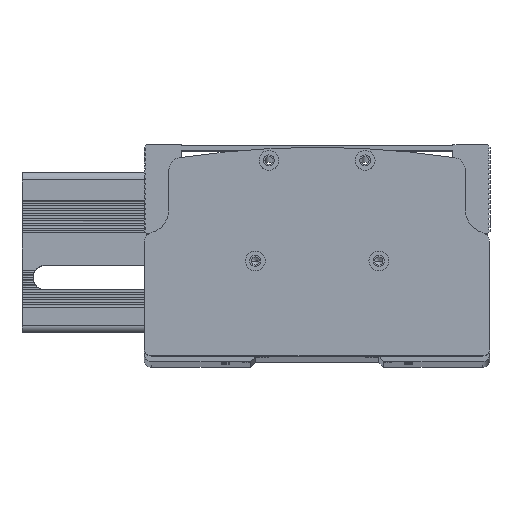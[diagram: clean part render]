
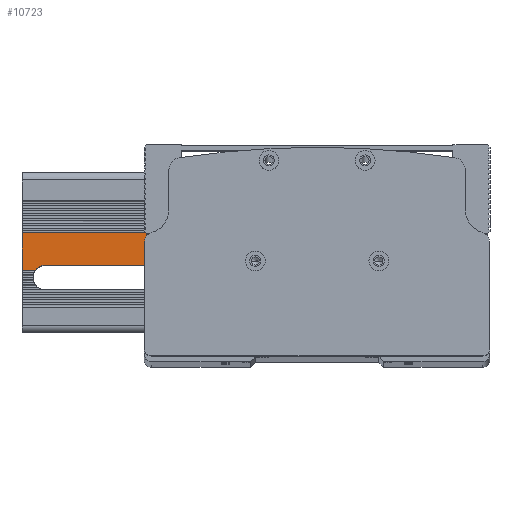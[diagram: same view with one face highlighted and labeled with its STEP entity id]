
A CAD part, top view. The second image highlights one B-rep face of the part: STEP entity #10723.
In plain terms, the highlighted planar face has unit normal (0, 0, 1) as drawn and (-1, 0, 0) by its records, which use the part's own axes.
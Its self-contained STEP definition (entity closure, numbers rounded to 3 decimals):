
#527 = CARTESIAN_POINT ( 'NONE',  ( 0., 40.5, 0. ) ) ;
#1597 = CARTESIAN_POINT ( 'NONE',  ( 0., 40.5, 87. ) ) ;
#2068 = LINE ( 'NONE', #23958, #14045 ) ;
#3798 = VECTOR ( 'NONE', #52093, 1000. ) ;
#5304 = ORIENTED_EDGE ( 'NONE', *, *, #33402, .F. ) ;
#5406 = CARTESIAN_POINT ( 'NONE',  ( 0., 27.5, 9.5 ) ) ;
#6473 = EDGE_CURVE ( 'NONE', #47955, #48107, #14875, .T. ) ;
#7123 = DIRECTION ( 'NONE',  ( -1., 0., 0. ) ) ;
#7949 = VECTOR ( 'NONE', #48110, 1000. ) ;
#8329 = LINE ( 'NONE', #5406, #39387 ) ;
#9477 = DIRECTION ( 'NONE',  ( 0., 0., -1. ) ) ;
#10723 = ADVANCED_FACE ( 'NONE', ( #39838 ), #27975, .F. ) ;
#11584 = CARTESIAN_POINT ( 'NONE',  ( 0., 25.5, 87. ) ) ;
#11787 = DIRECTION ( 'NONE',  ( 0., 0., -1. ) ) ;
#12104 = ORIENTED_EDGE ( 'NONE', *, *, #45567, .T. ) ;
#12484 = ORIENTED_EDGE ( 'NONE', *, *, #17765, .F. ) ;
#13064 = CARTESIAN_POINT ( 'NONE',  ( 0., 27.5, 9.5 ) ) ;
#13079 = CARTESIAN_POINT ( 'NONE',  ( 0., 22.5, 49.5 ) ) ;
#14045 = VECTOR ( 'NONE', #40004, 1000. ) ;
#14070 = VERTEX_POINT ( 'NONE', #28972 ) ;
#14875 = LINE ( 'NONE', #40272, #47136 ) ;
#15861 = DIRECTION ( 'NONE',  ( 0., -1., 0. ) ) ;
#16063 = AXIS2_PLACEMENT_3D ( 'NONE', #32056, #36097, #11787 ) ;
#16993 = VERTEX_POINT ( 'NONE', #1597 ) ;
#17194 = DIRECTION ( 'NONE',  ( 0., 0., 1. ) ) ;
#17298 = VERTEX_POINT ( 'NONE', #11584 ) ;
#17430 = ORIENTED_EDGE ( 'NONE', *, *, #42730, .F. ) ;
#17765 = EDGE_CURVE ( 'NONE', #49169, #44742, #23776, .T. ) ;
#17917 = CARTESIAN_POINT ( 'NONE',  ( 0., 40.5, 148. ) ) ;
#19438 = AXIS2_PLACEMENT_3D ( 'NONE', #31445, #7123, #35499 ) ;
#19832 = CARTESIAN_POINT ( 'NONE',  ( 0., 25.5, 5.5 ) ) ;
#20197 = CARTESIAN_POINT ( 'NONE',  ( 0., 0., 87. ) ) ;
#21188 = CIRCLE ( 'NONE', #35026, 5. ) ;
#21992 = EDGE_LOOP ( 'NONE', ( #12484, #50282, #17430, #46222, #5304, #42879, #23553, #12104 ) ) ;
#23553 = ORIENTED_EDGE ( 'NONE', *, *, #6473, .T. ) ;
#23776 = CIRCLE ( 'NONE', #19438, 5. ) ;
#23958 = CARTESIAN_POINT ( 'NONE',  ( 0., 25.5, 148. ) ) ;
#25382 = LINE ( 'NONE', #44045, #3798 ) ;
#27975 = PLANE ( 'NONE',  #16063 ) ;
#28972 = CARTESIAN_POINT ( 'NONE',  ( 0., 25.5, 53.5 ) ) ;
#29540 = LINE ( 'NONE', #20197, #7949 ) ;
#31236 = EDGE_CURVE ( 'NONE', #16993, #47955, #50867, .T. ) ;
#31445 = CARTESIAN_POINT ( 'NONE',  ( 0., 22.5, 9.5 ) ) ;
#32056 = CARTESIAN_POINT ( 'NONE',  ( 0., 0., 87. ) ) ;
#33402 = EDGE_CURVE ( 'NONE', #16993, #17298, #29540, .T. ) ;
#34638 = VERTEX_POINT ( 'NONE', #39646 ) ;
#35026 = AXIS2_PLACEMENT_3D ( 'NONE', #13079, #41395, #17194 ) ;
#35499 = DIRECTION ( 'NONE',  ( 0., 0., 1. ) ) ;
#36097 = DIRECTION ( 'NONE',  ( 1., 0., 0. ) ) ;
#36314 = EDGE_CURVE ( 'NONE', #14070, #17298, #2068, .T. ) ;
#37829 = CARTESIAN_POINT ( 'NONE',  ( 0., 25.5, 0. ) ) ;
#39387 = VECTOR ( 'NONE', #9477, 1000. ) ;
#39646 = CARTESIAN_POINT ( 'NONE',  ( 0., 27.5, 49.5 ) ) ;
#39838 = FACE_OUTER_BOUND ( 'NONE', #21992, .T. ) ;
#40004 = DIRECTION ( 'NONE',  ( 0., 0., 1. ) ) ;
#40192 = VECTOR ( 'NONE', #42095, 1000. ) ;
#40272 = CARTESIAN_POINT ( 'NONE',  ( 0., 0., 0. ) ) ;
#41395 = DIRECTION ( 'NONE',  ( -1., 0., 0. ) ) ;
#42095 = DIRECTION ( 'NONE',  ( 0., 0., -1. ) ) ;
#42730 = EDGE_CURVE ( 'NONE', #14070, #34638, #21188, .T. ) ;
#42879 = ORIENTED_EDGE ( 'NONE', *, *, #31236, .T. ) ;
#44045 = CARTESIAN_POINT ( 'NONE',  ( 0., 25.5, 148. ) ) ;
#44742 = VERTEX_POINT ( 'NONE', #19832 ) ;
#45567 = EDGE_CURVE ( 'NONE', #48107, #44742, #25382, .T. ) ;
#46222 = ORIENTED_EDGE ( 'NONE', *, *, #36314, .T. ) ;
#47136 = VECTOR ( 'NONE', #15861, 1000. ) ;
#47955 = VERTEX_POINT ( 'NONE', #527 ) ;
#48107 = VERTEX_POINT ( 'NONE', #37829 ) ;
#48110 = DIRECTION ( 'NONE',  ( 0., -1., 0. ) ) ;
#49169 = VERTEX_POINT ( 'NONE', #13064 ) ;
#50282 = ORIENTED_EDGE ( 'NONE', *, *, #51166, .F. ) ;
#50867 = LINE ( 'NONE', #17917, #40192 ) ;
#51166 = EDGE_CURVE ( 'NONE', #34638, #49169, #8329, .T. ) ;
#52093 = DIRECTION ( 'NONE',  ( 0., 0., 1. ) ) ;
